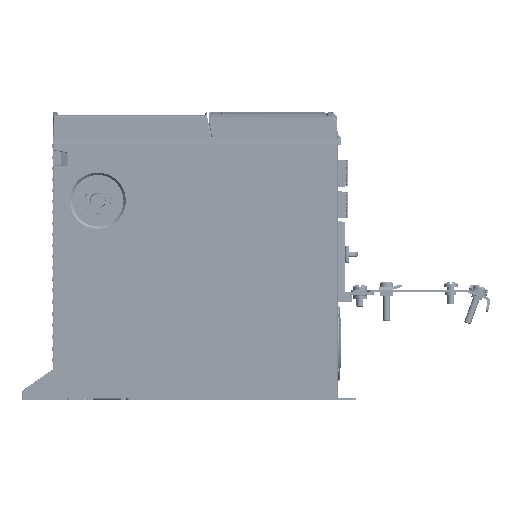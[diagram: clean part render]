
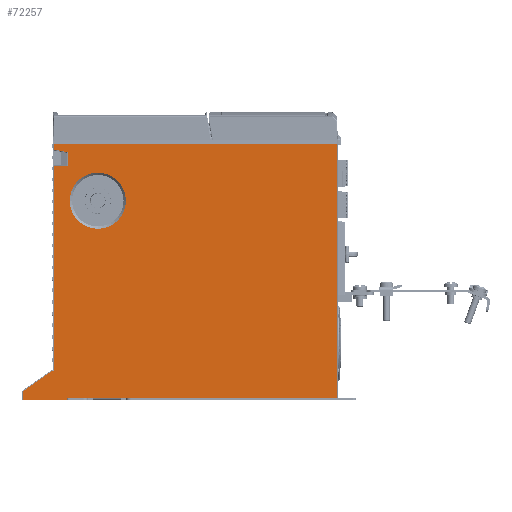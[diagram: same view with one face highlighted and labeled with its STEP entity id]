
A CAD part, left-side view. The second image highlights one B-rep face of the part: STEP entity #72257.
In plain terms, the highlighted planar face has unit normal (-1, 0, 0).
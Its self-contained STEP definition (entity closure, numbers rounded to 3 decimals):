
#29344=DIRECTION('',(0.,0.,1.));
#29345=VECTOR('',#29344,148.);
#29346=CARTESIAN_POINT('',(-37.5,-165.5,-140.6));
#29347=LINE('',#29346,#29345);
#29352=DIRECTION('',(0.,-0.996,0.087));
#29353=VECTOR('',#29352,0.897);
#29354=CARTESIAN_POINT('',(-37.5,0.394,-124.836));
#29355=LINE('',#29354,#29353);
#29356=DIRECTION('',(0.,0.985,0.174));
#29357=VECTOR('',#29356,8.22);
#29358=CARTESIAN_POINT('',(-37.5,-8.595,2.659));
#29359=LINE('',#29358,#29357);
#29360=DIRECTION('',(0.,-1.,0.));
#29361=VECTOR('',#29360,165.);
#29362=CARTESIAN_POINT('',(-37.5,-0.5,7.4));
#29363=LINE('',#29362,#29361);
#29364=DIRECTION('',(0.,1.,0.));
#29365=VECTOR('',#29364,157.5);
#29366=CARTESIAN_POINT('',(-37.5,-165.5,-140.6));
#29367=LINE('',#29366,#29365);
#29368=DIRECTION('',(0.,0.035,-0.999));
#29369=VECTOR('',#29368,1.501);
#29370=CARTESIAN_POINT('',(-37.5,-8.,-140.6));
#29371=LINE('',#29370,#29369);
#29372=DIRECTION('',(0.,-0.818,0.575));
#29373=VECTOR('',#29372,20.909);
#29374=CARTESIAN_POINT('',(-37.5,17.5,-136.86));
#29375=LINE('',#29374,#29373);
#29376=CARTESIAN_POINT('',(-37.5,-26.2,-25.7));
#29377=DIRECTION('',(-1.,0.,0.));
#29378=DIRECTION('',(0.,1.,0.));
#29379=AXIS2_PLACEMENT_3D('',#29376,#29377,#29378);
#29381=CARTESIAN_POINT('',(-37.5,-26.2,-25.7));
#29382=DIRECTION('',(-1.,0.,0.));
#29383=DIRECTION('',(0.,0.,-1.));
#29384=AXIS2_PLACEMENT_3D('',#29381,#29382,#29383);
#29386=CARTESIAN_POINT('',(-37.5,-26.2,-25.7));
#29387=DIRECTION('',(-1.,0.,0.));
#29388=DIRECTION('',(0.,-1.,0.));
#29389=AXIS2_PLACEMENT_3D('',#29386,#29387,#29388);
#29391=CARTESIAN_POINT('',(-37.5,-26.2,-25.7));
#29392=DIRECTION('',(-1.,0.,0.));
#29393=DIRECTION('',(0.,0.,1.));
#29394=AXIS2_PLACEMENT_3D('',#29391,#29392,#29393);
#29522=DIRECTION('',(0.,-1.,0.));
#29523=VECTOR('',#29522,25.448);
#29524=CARTESIAN_POINT('',(-37.5,17.5,-142.1));
#29525=LINE('',#29524,#29523);
#29550=DIRECTION('',(0.,0.,-1.));
#29551=VECTOR('',#29550,5.24);
#29552=CARTESIAN_POINT('',(-37.5,17.5,-136.86));
#29553=LINE('',#29552,#29551);
#32569=DIRECTION('',(0.,0.,-1.));
#32570=VECTOR('',#32569,3.314);
#32571=CARTESIAN_POINT('',(-37.5,-0.5,7.4));
#32572=LINE('',#32571,#32570);
#32624=DIRECTION('',(0.,0.,-1.));
#32625=VECTOR('',#32624,8.354);
#32626=CARTESIAN_POINT('',(-37.5,-8.595,2.659));
#32627=LINE('',#32626,#32625);
#32644=DIRECTION('',(0.,1.,0.));
#32645=VECTOR('',#32644,8.095);
#32646=CARTESIAN_POINT('',(-37.5,-8.595,-5.695));
#32647=LINE('',#32646,#32645);
#32739=DIRECTION('',(0.,0.,-1.));
#32740=VECTOR('',#32739,119.063);
#32741=CARTESIAN_POINT('',(-37.5,-0.5,-5.695));
#32742=LINE('',#32741,#32740);
#59866=CARTESIAN_POINT('',(-37.5,0.394,-124.836));
#59867=CARTESIAN_POINT('',(-37.5,-0.5,-124.758));
#59868=VERTEX_POINT('',#59866);
#59869=VERTEX_POINT('',#59867);
#59870=CARTESIAN_POINT('',(-37.5,-0.5,-5.695));
#59871=VERTEX_POINT('',#59870);
#59872=CARTESIAN_POINT('',(-37.5,-8.595,-5.695));
#59873=VERTEX_POINT('',#59872);
#59874=CARTESIAN_POINT('',(-37.5,-8.595,2.659));
#59875=VERTEX_POINT('',#59874);
#59876=CARTESIAN_POINT('',(-37.5,-0.5,4.086));
#59877=VERTEX_POINT('',#59876);
#59878=CARTESIAN_POINT('',(-37.5,-0.5,7.4));
#59879=VERTEX_POINT('',#59878);
#59880=CARTESIAN_POINT('',(-37.5,-165.5,7.4));
#59881=VERTEX_POINT('',#59880);
#59882=CARTESIAN_POINT('',(-37.5,-165.5,-140.6));
#59883=VERTEX_POINT('',#59882);
#59884=CARTESIAN_POINT('',(-37.5,-8.,-140.6));
#59885=VERTEX_POINT('',#59884);
#59886=CARTESIAN_POINT('',(-37.5,-7.948,-142.1));
#59887=VERTEX_POINT('',#59886);
#59888=CARTESIAN_POINT('',(-37.5,17.5,-142.1));
#59889=VERTEX_POINT('',#59888);
#59890=CARTESIAN_POINT('',(-37.5,17.5,-136.86));
#59891=VERTEX_POINT('',#59890);
#59892=CARTESIAN_POINT('',(-37.5,-26.2,-42.05));
#59893=CARTESIAN_POINT('',(-37.5,-42.55,-25.7));
#59894=VERTEX_POINT('',#59892);
#59895=VERTEX_POINT('',#59893);
#59896=CARTESIAN_POINT('',(-37.5,-9.85,-25.7));
#59897=VERTEX_POINT('',#59896);
#59898=CARTESIAN_POINT('',(-37.5,-26.2,-9.35));
#59899=VERTEX_POINT('',#59898);
#72216=CARTESIAN_POINT('',(-37.5,0.,-142.1));
#72217=DIRECTION('',(-1.,0.,0.));
#72218=DIRECTION('',(0.,0.,1.));
#72219=AXIS2_PLACEMENT_3D('',#72216,#72217,#72218);
#72220=PLANE('',#72219);
#72222=ORIENTED_EDGE('',*,*,#72221,.T.);
#72224=ORIENTED_EDGE('',*,*,#72223,.F.);
#72226=ORIENTED_EDGE('',*,*,#72225,.F.);
#72228=ORIENTED_EDGE('',*,*,#72227,.F.);
#72230=ORIENTED_EDGE('',*,*,#72229,.T.);
#72232=ORIENTED_EDGE('',*,*,#72231,.F.);
#72234=ORIENTED_EDGE('',*,*,#72233,.T.);
#72235=ORIENTED_EDGE('',*,*,#72208,.F.);
#72236=ORIENTED_EDGE('',*,*,#72197,.T.);
#72238=ORIENTED_EDGE('',*,*,#72237,.T.);
#72240=ORIENTED_EDGE('',*,*,#72239,.F.);
#72242=ORIENTED_EDGE('',*,*,#72241,.F.);
#72244=ORIENTED_EDGE('',*,*,#72243,.T.);
#72245=EDGE_LOOP('',(#72222,#72224,#72226,#72228,#72230,#72232,#72234,#72235,
#72236,#72238,#72240,#72242,#72244));
#72246=FACE_OUTER_BOUND('',#72245,.F.);
#72248=ORIENTED_EDGE('',*,*,#72247,.T.);
#72250=ORIENTED_EDGE('',*,*,#72249,.T.);
#72252=ORIENTED_EDGE('',*,*,#72251,.T.);
#72254=ORIENTED_EDGE('',*,*,#72253,.T.);
#72255=EDGE_LOOP('',(#72248,#72250,#72252,#72254));
#72256=FACE_BOUND('',#72255,.F.);
#29380=CIRCLE('',#29379,16.35);
#29385=CIRCLE('',#29384,16.35);
#29390=CIRCLE('',#29389,16.35);
#29395=CIRCLE('',#29394,16.35);
#72197=EDGE_CURVE('',#59883,#59885,#29367,.T.);
#72208=EDGE_CURVE('',#59883,#59881,#29347,.T.);
#72221=EDGE_CURVE('',#59868,#59869,#29355,.T.);
#72223=EDGE_CURVE('',#59871,#59869,#32742,.T.);
#72225=EDGE_CURVE('',#59873,#59871,#32647,.T.);
#72227=EDGE_CURVE('',#59875,#59873,#32627,.T.);
#72229=EDGE_CURVE('',#59875,#59877,#29359,.T.);
#72231=EDGE_CURVE('',#59879,#59877,#32572,.T.);
#72233=EDGE_CURVE('',#59879,#59881,#29363,.T.);
#72237=EDGE_CURVE('',#59885,#59887,#29371,.T.);
#72239=EDGE_CURVE('',#59889,#59887,#29525,.T.);
#72241=EDGE_CURVE('',#59891,#59889,#29553,.T.);
#72243=EDGE_CURVE('',#59891,#59868,#29375,.T.);
#72247=EDGE_CURVE('',#59897,#59894,#29380,.T.);
#72249=EDGE_CURVE('',#59894,#59895,#29385,.T.);
#72251=EDGE_CURVE('',#59895,#59899,#29390,.T.);
#72253=EDGE_CURVE('',#59899,#59897,#29395,.T.);
#72257=ADVANCED_FACE('',(#72246,#72256),#72220,.T.);
